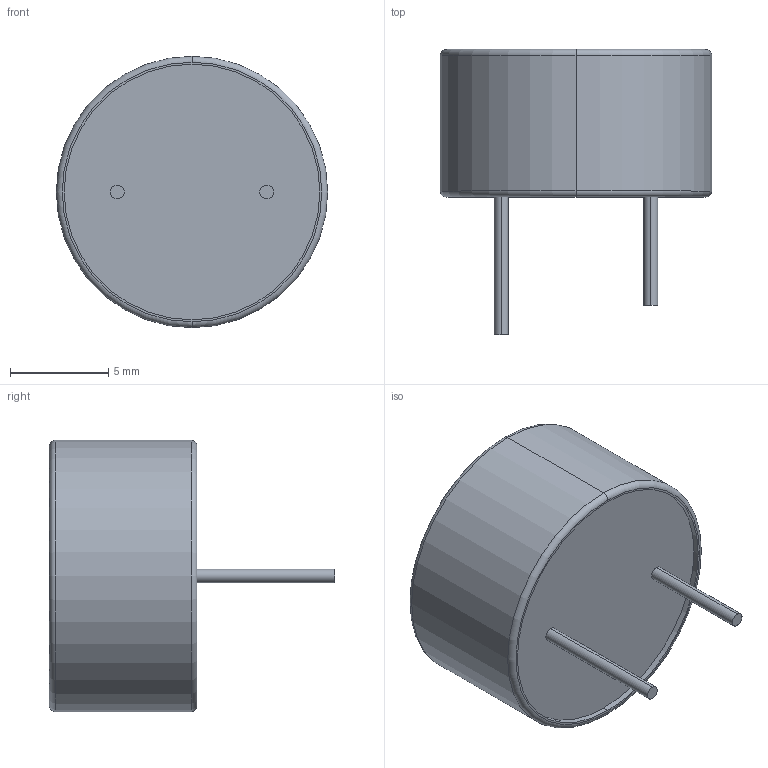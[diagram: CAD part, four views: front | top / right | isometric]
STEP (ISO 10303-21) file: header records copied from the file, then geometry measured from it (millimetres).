
FILE_DESCRIPTION (( 'STEP AP214' ), '1' );
FILE_NAME ('CPI-1375-80T.STEP', '2024-12-12T19:41:33', ( '' ), ( '' ), 'SwSTEP 2.0', 'SolidWorks 2021', '' );
FILE_SCHEMA (( 'AUTOMOTIVE_DESIGN' ));
Length unit declared in the file: millimetre
Products named in the file (1): CPI-1375-80T
Bounding box: 13.8 x 14.5 x 13.8 mm (x, y, z)
Volume: 1081.1 mm3; surface area: 661.3 mm2
Topology: 3 solids, 3 shells, 22 faces, 38 edges, 24 vertices
Faces by surface type: cylinder 10, plane 8, torus 4
Entity records: 590 total; most frequent: DIRECTION 112, CARTESIAN_POINT 85, ORIENTED_EDGE 76, AXIS2_PLACEMENT_3D 51, EDGE_CURVE 38, CIRCLE 28, VERTEX_POINT 24, EDGE_LOOP 24
